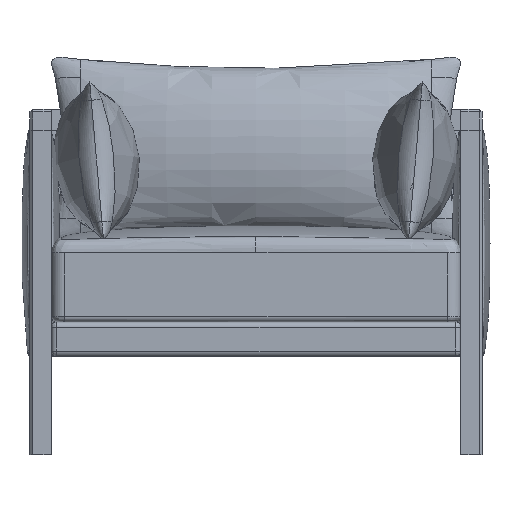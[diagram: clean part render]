
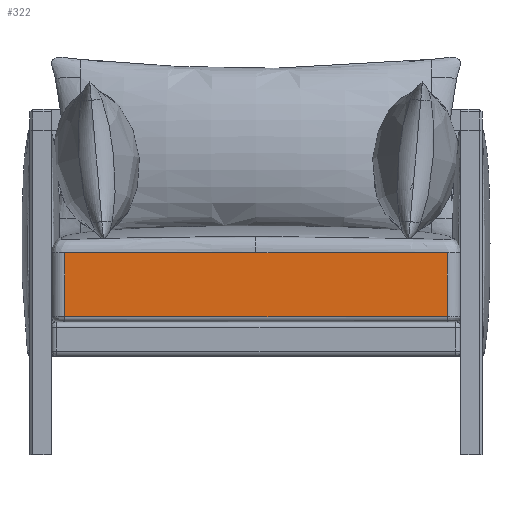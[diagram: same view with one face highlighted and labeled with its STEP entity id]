
A CAD part, front view. The second image highlights one B-rep face of the part: STEP entity #322.
In plain terms, the highlighted planar face has unit normal (0, -1, 0).
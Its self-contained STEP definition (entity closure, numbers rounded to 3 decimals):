
#42=(
BOUNDED_CURVE()
B_SPLINE_CURVE(3,(#72505,#72506,#72507,#72508),.UNSPECIFIED.,.F.,.F.)
B_SPLINE_CURVE_WITH_KNOTS((4,4),(0.,359.953),.UNSPECIFIED.)
CURVE()
GEOMETRIC_REPRESENTATION_ITEM()
RATIONAL_B_SPLINE_CURVE((1.,1.,1.,1.))
REPRESENTATION_ITEM('')
);
#45=(
BOUNDED_CURVE()
B_SPLINE_CURVE(3,(#72525,#72526,#72527,#72528),.UNSPECIFIED.,.F.,.F.)
B_SPLINE_CURVE_WITH_KNOTS((4,4),(359.953,719.907),
 .UNSPECIFIED.)
CURVE()
GEOMETRIC_REPRESENTATION_ITEM()
RATIONAL_B_SPLINE_CURVE((1.,1.,1.,1.))
REPRESENTATION_ITEM('')
);
#151=PLANE('',#2194);
#322=ADVANCED_FACE('',(#469),#151,.T.);
#469=FACE_OUTER_BOUND('',#616,.T.);
#616=EDGE_LOOP('',(#1152,#1153,#1154,#1155,#1156));
#1152=ORIENTED_EDGE('',*,*,#1524,.T.);
#1153=ORIENTED_EDGE('',*,*,#1508,.T.);
#1154=ORIENTED_EDGE('',*,*,#1515,.T.);
#1155=ORIENTED_EDGE('',*,*,#1512,.T.);
#1156=ORIENTED_EDGE('',*,*,#1523,.F.);
#1508=EDGE_CURVE('',#2008,#2003,#42,.T.);
#1512=EDGE_CURVE('',#2007,#2024,#1811,.T.);
#1515=EDGE_CURVE('',#2003,#2007,#45,.T.);
#1523=EDGE_CURVE('',#2023,#2024,#1821,.T.);
#1524=EDGE_CURVE('',#2023,#2008,#1822,.T.);
#1811=B_SPLINE_CURVE_WITH_KNOTS('',1,(#72519,#72520),.UNSPECIFIED.,.F.,
 .F.,(2,2),(20.,140.),.UNSPECIFIED.);
#1821=B_SPLINE_CURVE_WITH_KNOTS('',1,(#72734,#72735),.UNSPECIFIED.,.F.,
 .F.,(2,2),(0.,719.907),.UNSPECIFIED.);
#1822=B_SPLINE_CURVE_WITH_KNOTS('',1,(#72736,#72737),.UNSPECIFIED.,.F.,
 .F.,(2,2),(10.,130.),.UNSPECIFIED.);
#2003=VERTEX_POINT('',#72277);
#2007=VERTEX_POINT('',#72281);
#2008=VERTEX_POINT('',#72282);
#2023=VERTEX_POINT('',#72297);
#2024=VERTEX_POINT('',#72298);
#2194=AXIS2_PLACEMENT_3D('',#71031,#2266,$);
#2266=DIRECTION('',(0.,-1.,0.));
#71031=CARTESIAN_POINT('',(384.907,0.,250.));
#72277=CARTESIAN_POINT('',(-0.047,0.,380.));
#72281=CARTESIAN_POINT('',(-360.,0.,380.));
#72282=CARTESIAN_POINT('',(359.907,0.,380.));
#72297=CARTESIAN_POINT('',(359.907,0.,260.));
#72298=CARTESIAN_POINT('',(-360.,0.,260.));
#72505=CARTESIAN_POINT('',(359.907,0.,380.));
#72506=CARTESIAN_POINT('',(239.922,0.,380.));
#72507=CARTESIAN_POINT('',(119.938,0.,380.));
#72508=CARTESIAN_POINT('',(-0.047,0.,380.));
#72519=CARTESIAN_POINT('',(-360.,0.,380.));
#72520=CARTESIAN_POINT('',(-360.,0.,260.));
#72525=CARTESIAN_POINT('',(-0.047,0.,380.));
#72526=CARTESIAN_POINT('',(-120.031,0.,380.));
#72527=CARTESIAN_POINT('',(-240.016,0.,380.));
#72528=CARTESIAN_POINT('',(-360.,0.,380.));
#72734=CARTESIAN_POINT('',(359.907,0.,260.));
#72735=CARTESIAN_POINT('',(-360.,0.,260.));
#72736=CARTESIAN_POINT('',(359.907,0.,260.));
#72737=CARTESIAN_POINT('',(359.907,0.,380.));
